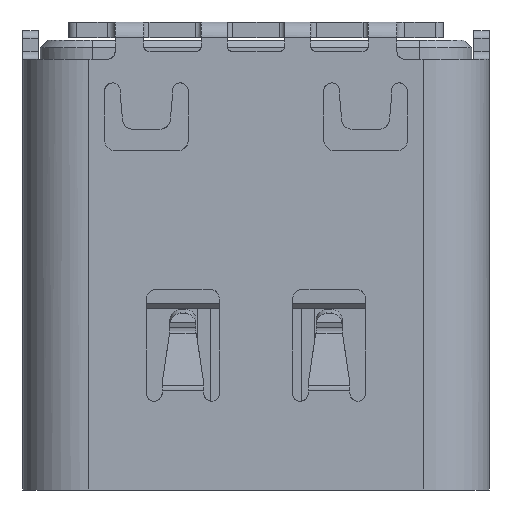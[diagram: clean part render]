
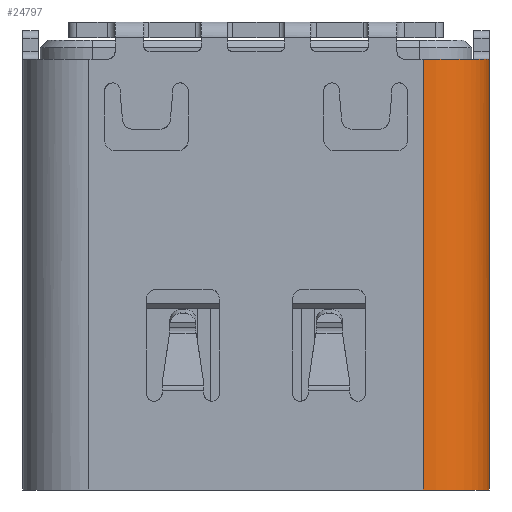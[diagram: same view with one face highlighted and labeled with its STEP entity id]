
A CAD part, front view. The second image highlights one B-rep face of the part: STEP entity #24797.
In plain terms, the highlighted free-form (B-spline) face has degree [3, 1] with [15, 2] control points.
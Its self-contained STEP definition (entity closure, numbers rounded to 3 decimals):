
#490 = EDGE_LOOP ( 'NONE', ( #12657, #18740, #18395, #21511 ) ) ;
#1184 = CARTESIAN_POINT ( 'NONE',  ( 4.468, -0.355, 8.25 ) ) ;
#1195 = CARTESIAN_POINT ( 'NONE',  ( 3.319, -1.564, 8.25 ) ) ;
#1320 = CARTESIAN_POINT ( 'NONE',  ( 4.466, -0.397, 8.25 ) ) ;
#1437 = CARTESIAN_POINT ( 'NONE',  ( 3.2, -1.57, 0. ) ) ;
#1510 = CARTESIAN_POINT ( 'NONE',  ( 4.47, -0.3, 0. ) ) ;
#1572 = CARTESIAN_POINT ( 'NONE',  ( 4.464, -0.466, 8.25 ) ) ;
#1699 = CARTESIAN_POINT ( 'NONE',  ( 3.366, -1.564, 8.25 ) ) ;
#2971 = B_SPLINE_CURVE_WITH_KNOTS ( 'NONE', 1,
 ( #14185, #6347 ),
 .UNSPECIFIED., .F., .F.,
 ( 2, 2 ),
 ( 0., 1. ),
 .UNSPECIFIED. ) ;
#2980 = CARTESIAN_POINT ( 'NONE',  ( 4.303, -0.937, 0. ) ) ;
#3158 = CARTESIAN_POINT ( 'NONE',  ( 3.837, -1.403, 0. ) ) ;
#3297 = CARTESIAN_POINT ( 'NONE',  ( 3.228, -1.569, 8.25 ) ) ;
#3424 = CARTESIAN_POINT ( 'NONE',  ( 4.101, -1.201, 0. ) ) ;
#3542 = CARTESIAN_POINT ( 'NONE',  ( 4.377, -0.787, 0. ) ) ;
#3877 = VERTEX_POINT ( 'NONE', #1510 ) ;
#4069 = B_SPLINE_SURFACE_WITH_KNOTS ( 'NONE', 3, 1, ( 
 ( #5381, #11662 ),
 ( #7471, #11146 ),
 ( #1699, #17657 ),
 ( #25234, #7339 ),
 ( #13084, #23280 ),
 ( #13357, #3158 ),
 ( #15435, #21343 ),
 ( #7602, #3424 ),
 ( #23413, #5509 ),
 ( #13488, #19505 ),
 ( #21467, #3542 ),
 ( #19118, #11530 ),
 ( #1572, #25621 ),
 ( #1184, #17525 ),
 ( #9173, #15563 ) ),
 .UNSPECIFIED., .F., .F., .F.,
 ( 4, 1, 1, 1, 1, 1, 1, 1, 1, 1, 1, 1, 4 ),
 ( 2, 2 ),
 ( 0., 0.083, 0.167, 0.25, 0.333, 0.417, 0.5, 0.583, 0.667, 0.75, 0.833, 0.917, 1. ),
 ( 0., 1. ),
 .UNSPECIFIED. ) ;
#4272 = VERTEX_POINT ( 'NONE', #11049 ) ;
#4415 = CARTESIAN_POINT ( 'NONE',  ( 4.47, -0.3, 8.25 ) ) ;
#4938 = CARTESIAN_POINT ( 'NONE',  ( 4.21, -1.075, 0. ) ) ;
#5257 = CARTESIAN_POINT ( 'NONE',  ( 4.46, -0.461, 8.25 ) ) ;
#5381 = CARTESIAN_POINT ( 'NONE',  ( 3.2, -1.57, 8.25 ) ) ;
#5509 = CARTESIAN_POINT ( 'NONE',  ( 4.21, -1.075, 0. ) ) ;
#6347 = CARTESIAN_POINT ( 'NONE',  ( 3.2, -1.57, 0. ) ) ;
#6905 = CARTESIAN_POINT ( 'NONE',  ( 4.464, -0.466, 0. ) ) ;
#7093 = CARTESIAN_POINT ( 'NONE',  ( 3.98, -1.316, 8.25 ) ) ;
#7228 = CARTESIAN_POINT ( 'NONE',  ( 3.529, -1.53, 8.25 ) ) ;
#7297 = CARTESIAN_POINT ( 'NONE',  ( 3.53, -1.53, 0. ) ) ;
#7339 = CARTESIAN_POINT ( 'NONE',  ( 3.53, -1.53, 0. ) ) ;
#7350 = CARTESIAN_POINT ( 'NONE',  ( 3.2, -1.57, 8.25 ) ) ;
#7384 = EDGE_CURVE ( 'NONE', #22158, #24769, #2971, .T. ) ;
#7471 = CARTESIAN_POINT ( 'NONE',  ( 3.255, -1.568, 8.25 ) ) ;
#7602 = CARTESIAN_POINT ( 'NONE',  ( 4.101, -1.201, 8.25 ) ) ;
#8924 = CARTESIAN_POINT ( 'NONE',  ( 3.609, -1.505, 8.25 ) ) ;
#9058 = CARTESIAN_POINT ( 'NONE',  ( 4.463, -0.428, 8.25 ) ) ;
#9152 = B_SPLINE_CURVE_WITH_KNOTS ( 'NONE', 1,
 ( #4415, #12390 ),
 .UNSPECIFIED., .F., .F.,
 ( 2, 2 ),
 ( 0., 1. ),
 .UNSPECIFIED. ) ;
#9173 = CARTESIAN_POINT ( 'NONE',  ( 4.47, -0.3, 8.25 ) ) ;
#9187 = CARTESIAN_POINT ( 'NONE',  ( 4.45, -0.528, 8.25 ) ) ;
#9385 = CARTESIAN_POINT ( 'NONE',  ( 3.2, -1.57, 0. ) ) ;
#9963 = B_SPLINE_CURVE_WITH_KNOTS ( 'NONE', 3,
 ( #7350, #3297, #11156, #19260, #24991, #15049, #1195, #13228, #25119, #7228, #8924, #23030, #7093, #11410, #12966, #21228, #19517, #9187, #17153, #5257, #11017, #23154, #9058, #1320, #17405, #20960 ),
 .UNSPECIFIED., .F., .F.,
 ( 4, 1, 1, 2, 2, 2, 2, 2, 2, 2, 1, 1, 2, 2, 4 ),
 ( 0., 0.031, 0.047, 0.055, 0.063, 0.125, 0.25, 0.5, 0.75, 0.875, 0.906, 0.922, 0.93, 0.937, 1. ),
 .UNSPECIFIED. ) ;
#11017 = CARTESIAN_POINT ( 'NONE',  ( 4.461, -0.445, 8.25 ) ) ;
#11049 = CARTESIAN_POINT ( 'NONE',  ( 4.47, -0.3, 8.25 ) ) ;
#11096 = CARTESIAN_POINT ( 'NONE',  ( 3.975, -1.31, 0. ) ) ;
#11146 = CARTESIAN_POINT ( 'NONE',  ( 3.255, -1.568, 0. ) ) ;
#11156 = CARTESIAN_POINT ( 'NONE',  ( 3.264, -1.567, 8.25 ) ) ;
#11410 = CARTESIAN_POINT ( 'NONE',  ( 4.216, -1.08, 8.25 ) ) ;
#11530 = CARTESIAN_POINT ( 'NONE',  ( 4.43, -0.63, 0. ) ) ;
#11662 = CARTESIAN_POINT ( 'NONE',  ( 3.2, -1.57, 0. ) ) ;
#12362 = EDGE_CURVE ( 'NONE', #4272, #3877, #9152, .T. ) ;
#12390 = CARTESIAN_POINT ( 'NONE',  ( 4.47, -0.3, 0. ) ) ;
#12657 = ORIENTED_EDGE ( 'NONE', *, *, #12362, .F. ) ;
#12909 = CARTESIAN_POINT ( 'NONE',  ( 3.837, -1.403, 0. ) ) ;
#12966 = CARTESIAN_POINT ( 'NONE',  ( 4.309, -0.941, 8.25 ) ) ;
#13084 = CARTESIAN_POINT ( 'NONE',  ( 3.687, -1.477, 8.25 ) ) ;
#13228 = CARTESIAN_POINT ( 'NONE',  ( 3.366, -1.56, 8.25 ) ) ;
#13357 = CARTESIAN_POINT ( 'NONE',  ( 3.837, -1.403, 8.25 ) ) ;
#13488 = CARTESIAN_POINT ( 'NONE',  ( 4.303, -0.937, 8.25 ) ) ;
#14185 = CARTESIAN_POINT ( 'NONE',  ( 3.2, -1.57, 8.25 ) ) ;
#14860 = CARTESIAN_POINT ( 'NONE',  ( 4.377, -0.787, 0. ) ) ;
#14988 = CARTESIAN_POINT ( 'NONE',  ( 3.366, -1.564, 0. ) ) ;
#15049 = CARTESIAN_POINT ( 'NONE',  ( 3.317, -1.564, 8.25 ) ) ;
#15435 = CARTESIAN_POINT ( 'NONE',  ( 3.975, -1.31, 8.25 ) ) ;
#15563 = CARTESIAN_POINT ( 'NONE',  ( 4.47, -0.3, 0. ) ) ;
#17086 = CARTESIAN_POINT ( 'NONE',  ( 4.47, -0.3, 0. ) ) ;
#17153 = CARTESIAN_POINT ( 'NONE',  ( 4.455, -0.497, 8.25 ) ) ;
#17266 = FACE_OUTER_BOUND ( 'NONE', #490, .T. ) ;
#17405 = CARTESIAN_POINT ( 'NONE',  ( 4.468, -0.355, 8.25 ) ) ;
#17525 = CARTESIAN_POINT ( 'NONE',  ( 4.468, -0.355, 0. ) ) ;
#17657 = CARTESIAN_POINT ( 'NONE',  ( 3.366, -1.564, 0. ) ) ;
#18395 = ORIENTED_EDGE ( 'NONE', *, *, #7384, .T. ) ;
#18405 = EDGE_CURVE ( 'NONE', #24769, #3877, #18455, .T. ) ;
#18455 = B_SPLINE_CURVE_WITH_KNOTS ( 'NONE', 3,
 ( #9385, #22833, #14988, #7297, #23362, #12909, #11096, #25054, #4938, #2980, #14860, #21166, #6905, #18940, #17086 ),
 .UNSPECIFIED., .F., .F.,
 ( 4, 1, 1, 1, 1, 1, 1, 1, 1, 1, 1, 1, 4 ),
 ( 0., 0.083, 0.167, 0.25, 0.333, 0.417, 0.5, 0.583, 0.667, 0.75, 0.833, 0.917, 1. ),
 .UNSPECIFIED. ) ;
#18740 = ORIENTED_EDGE ( 'NONE', *, *, #25720, .F. ) ;
#18940 = CARTESIAN_POINT ( 'NONE',  ( 4.468, -0.355, 0. ) ) ;
#19118 = CARTESIAN_POINT ( 'NONE',  ( 4.43, -0.63, 8.25 ) ) ;
#19260 = CARTESIAN_POINT ( 'NONE',  ( 3.297, -1.565, 8.25 ) ) ;
#19505 = CARTESIAN_POINT ( 'NONE',  ( 4.303, -0.937, 0. ) ) ;
#19517 = CARTESIAN_POINT ( 'NONE',  ( 4.43, -0.629, 8.25 ) ) ;
#20960 = CARTESIAN_POINT ( 'NONE',  ( 4.47, -0.3, 8.25 ) ) ;
#21166 = CARTESIAN_POINT ( 'NONE',  ( 4.43, -0.63, 0. ) ) ;
#21228 = CARTESIAN_POINT ( 'NONE',  ( 4.405, -0.709, 8.25 ) ) ;
#21343 = CARTESIAN_POINT ( 'NONE',  ( 3.975, -1.31, 0. ) ) ;
#21467 = CARTESIAN_POINT ( 'NONE',  ( 4.377, -0.787, 8.25 ) ) ;
#21511 = ORIENTED_EDGE ( 'NONE', *, *, #18405, .T. ) ;
#22158 = VERTEX_POINT ( 'NONE', #25816 ) ;
#22833 = CARTESIAN_POINT ( 'NONE',  ( 3.255, -1.568, 0. ) ) ;
#23030 = CARTESIAN_POINT ( 'NONE',  ( 3.84, -1.41, 8.25 ) ) ;
#23154 = CARTESIAN_POINT ( 'NONE',  ( 4.462, -0.435, 8.25 ) ) ;
#23280 = CARTESIAN_POINT ( 'NONE',  ( 3.687, -1.477, 0. ) ) ;
#23362 = CARTESIAN_POINT ( 'NONE',  ( 3.687, -1.477, 0. ) ) ;
#23413 = CARTESIAN_POINT ( 'NONE',  ( 4.21, -1.075, 8.25 ) ) ;
#24769 = VERTEX_POINT ( 'NONE', #1437 ) ;
#24797 = ADVANCED_FACE ( 'NONE', ( #17266 ), #4069, .F. ) ;
#24991 = CARTESIAN_POINT ( 'NONE',  ( 3.31, -1.565, 8.25 ) ) ;
#25054 = CARTESIAN_POINT ( 'NONE',  ( 4.101, -1.201, 0. ) ) ;
#25119 = CARTESIAN_POINT ( 'NONE',  ( 3.407, -1.554, 8.25 ) ) ;
#25234 = CARTESIAN_POINT ( 'NONE',  ( 3.53, -1.53, 8.25 ) ) ;
#25621 = CARTESIAN_POINT ( 'NONE',  ( 4.464, -0.466, 0. ) ) ;
#25720 = EDGE_CURVE ( 'NONE', #22158, #4272, #9963, .T. ) ;
#25816 = CARTESIAN_POINT ( 'NONE',  ( 3.2, -1.57, 8.25 ) ) ;
